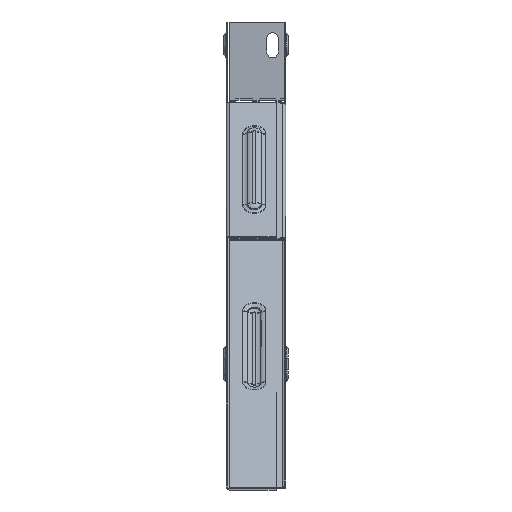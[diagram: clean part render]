
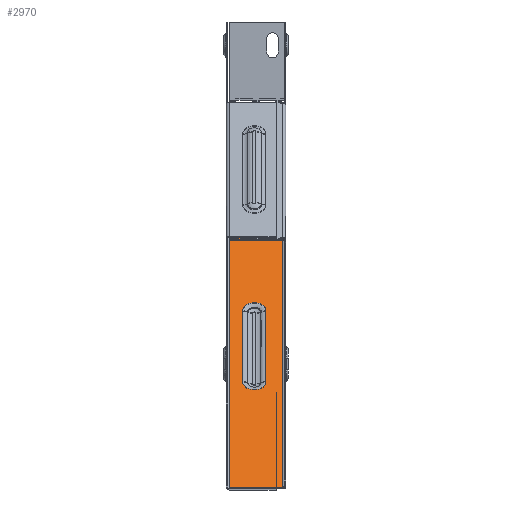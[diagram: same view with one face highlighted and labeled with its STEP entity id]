
A CAD part, left-side view. The second image highlights one B-rep face of the part: STEP entity #2970.
In plain terms, the highlighted planar face has unit normal (-0.707, 0, 0.707).
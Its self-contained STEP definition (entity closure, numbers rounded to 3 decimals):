
#223 = AXIS2_PLACEMENT_3D ( 'NONE', #8335, #761, #7155 ) ;
#761 = DIRECTION ( 'NONE',  ( -0.707, 0., 0.707 ) ) ;
#940 = LINE ( 'NONE', #4029, #6417 ) ;
#1065 = ORIENTED_EDGE ( 'NONE', *, *, #4411, .F. ) ;
#1903 = LINE ( 'NONE', #2057, #11808 ) ;
#2057 = CARTESIAN_POINT ( 'NONE',  ( -30.255, 0., -139.123 ) ) ;
#2062 = ORIENTED_EDGE ( 'NONE', *, *, #12466, .F. ) ;
#2122 = VECTOR ( 'NONE', #5954, 1000. ) ;
#2230 = EDGE_LOOP ( 'NONE', ( #1065, #8373, #2263, #5005 ) ) ;
#2263 = ORIENTED_EDGE ( 'NONE', *, *, #5235, .F. ) ;
#2318 = AXIS2_PLACEMENT_3D ( 'NONE', #5617, #14420, #15802 ) ;
#2333 = VERTEX_POINT ( 'NONE', #12074 ) ;
#2889 = FACE_OUTER_BOUND ( 'NONE', #14474, .T. ) ;
#2970 = ADVANCED_FACE ( 'NONE', ( #15155, #2889 ), #9604, .T. ) ;
#3093 = VECTOR ( 'NONE', #15410, 1000. ) ;
#3162 = EDGE_CURVE ( 'NONE', #7936, #5535, #940, .T. ) ;
#3308 = VECTOR ( 'NONE', #7471, 1000. ) ;
#3370 = VERTEX_POINT ( 'NONE', #13000 ) ;
#3533 = CARTESIAN_POINT ( 'NONE',  ( -30.255, 33.2, -139.123 ) ) ;
#4029 = CARTESIAN_POINT ( 'NONE',  ( 54.434, 11.183, -54.434 ) ) ;
#4411 = EDGE_CURVE ( 'NONE', #2333, #7936, #4797, .T. ) ;
#4716 = EDGE_CURVE ( 'NONE', #3370, #2333, #14464, .T. ) ;
#4797 = CIRCLE ( 'NONE', #2318, 6.917 ) ;
#4967 = DIRECTION ( 'NONE',  ( 0., 1., 0. ) ) ;
#5005 = ORIENTED_EDGE ( 'NONE', *, *, #3162, .F. ) ;
#5235 = EDGE_CURVE ( 'NONE', #5535, #3370, #12313, .T. ) ;
#5438 = CARTESIAN_POINT ( 'NONE',  ( 139.434, 33.2, 30.566 ) ) ;
#5535 = VERTEX_POINT ( 'NONE', #14235 ) ;
#5617 = CARTESIAN_POINT ( 'NONE',  ( 33.221, 18.1, -75.648 ) ) ;
#5954 = DIRECTION ( 'NONE',  ( -0.707, 0., -0.707 ) ) ;
#6407 = VERTEX_POINT ( 'NONE', #7589 ) ;
#6417 = VECTOR ( 'NONE', #11679, 1000. ) ;
#7148 = ORIENTED_EDGE ( 'NONE', *, *, #11606, .T. ) ;
#7155 = DIRECTION ( 'NONE',  ( 0.707, 0., 0.707 ) ) ;
#7207 = DIRECTION ( 'NONE',  ( 0., 1., 0. ) ) ;
#7430 = CARTESIAN_POINT ( 'NONE',  ( 75.648, 18.1, -33.221 ) ) ;
#7471 = DIRECTION ( 'NONE',  ( 0., 1., 0. ) ) ;
#7589 = CARTESIAN_POINT ( 'NONE',  ( -30.255, 1., -139.123 ) ) ;
#7791 = LINE ( 'NONE', #14637, #2122 ) ;
#7936 = VERTEX_POINT ( 'NONE', #9120 ) ;
#8335 = CARTESIAN_POINT ( 'NONE',  ( 54.434, 0., -54.434 ) ) ;
#8373 = ORIENTED_EDGE ( 'NONE', *, *, #4716, .F. ) ;
#9120 = CARTESIAN_POINT ( 'NONE',  ( 33.221, 11.183, -75.648 ) ) ;
#9228 = LINE ( 'NONE', #16231, #3308 ) ;
#9323 = VECTOR ( 'NONE', #13794, 1000. ) ;
#9439 = VERTEX_POINT ( 'NONE', #3533 ) ;
#9604 = PLANE ( 'NONE',  #223 ) ;
#11606 = EDGE_CURVE ( 'NONE', #12482, #13192, #9228, .T. ) ;
#11679 = DIRECTION ( 'NONE',  ( 0.707, 0., 0.707 ) ) ;
#11808 = VECTOR ( 'NONE', #7207, 1000. ) ;
#12074 = CARTESIAN_POINT ( 'NONE',  ( 33.221, 25.017, -75.648 ) ) ;
#12313 = CIRCLE ( 'NONE', #13854, 6.917 ) ;
#12315 = EDGE_CURVE ( 'NONE', #9439, #13192, #13971, .T. ) ;
#12353 = CARTESIAN_POINT ( 'NONE',  ( 54.434, 25.017, -54.434 ) ) ;
#12443 = EDGE_CURVE ( 'NONE', #12482, #6407, #7791, .T. ) ;
#12466 = EDGE_CURVE ( 'NONE', #6407, #9439, #1903, .T. ) ;
#12482 = VERTEX_POINT ( 'NONE', #14806 ) ;
#13000 = CARTESIAN_POINT ( 'NONE',  ( 75.648, 25.017, -33.221 ) ) ;
#13192 = VERTEX_POINT ( 'NONE', #15484 ) ;
#13794 = DIRECTION ( 'NONE',  ( -0.707, 0., -0.707 ) ) ;
#13825 = DIRECTION ( 'NONE',  ( -0.707, 0., 0.707 ) ) ;
#13854 = AXIS2_PLACEMENT_3D ( 'NONE', #7430, #13825, #4967 ) ;
#13971 = LINE ( 'NONE', #5438, #3093 ) ;
#14051 = ORIENTED_EDGE ( 'NONE', *, *, #12443, .F. ) ;
#14235 = CARTESIAN_POINT ( 'NONE',  ( 75.648, 11.183, -33.221 ) ) ;
#14420 = DIRECTION ( 'NONE',  ( -0.707, 0., 0.707 ) ) ;
#14464 = LINE ( 'NONE', #12353, #9323 ) ;
#14474 = EDGE_LOOP ( 'NONE', ( #14051, #7148, #14519, #2062 ) ) ;
#14519 = ORIENTED_EDGE ( 'NONE', *, *, #12315, .F. ) ;
#14637 = CARTESIAN_POINT ( 'NONE',  ( 139.434, 1., 30.566 ) ) ;
#14806 = CARTESIAN_POINT ( 'NONE',  ( 139.123, 1., 30.255 ) ) ;
#15155 = FACE_BOUND ( 'NONE', #2230, .T. ) ;
#15410 = DIRECTION ( 'NONE',  ( 0.707, 0., 0.707 ) ) ;
#15484 = CARTESIAN_POINT ( 'NONE',  ( 139.123, 33.2, 30.255 ) ) ;
#15802 = DIRECTION ( 'NONE',  ( 0., 1., 0. ) ) ;
#16231 = CARTESIAN_POINT ( 'NONE',  ( 139.123, 0., 30.255 ) ) ;
